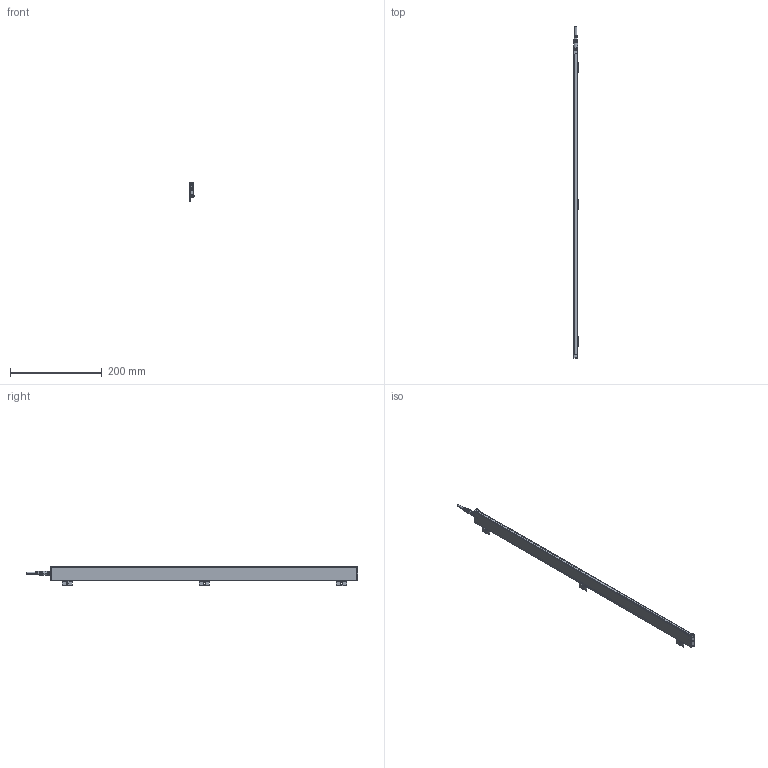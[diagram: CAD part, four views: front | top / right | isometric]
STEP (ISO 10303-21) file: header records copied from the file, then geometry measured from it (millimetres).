
FILE_DESCRIPTION (( 'STEP AP214' ), '1' );
FILE_NAME ('ILG-N-K2-0670mm.STEP', '2017-07-10T13:49:34', ( '' ), ( '' ), 'SwSTEP 2.0', 'SolidWorks 2016', '' );
FILE_SCHEMA (( 'AUTOMOTIVE_DESIGN' ));
Length unit declared in the file: millimetre
Products named in the file (1): ILG-N-K2-0670mm
Bounding box: 10.23 x 723.5 x 42.41 mm (x, y, z)
Surface area: 118136.4 mm2 (no closed solid volume)
Topology: 0 solids, 16 shells, 781 faces, 2020 edges, 1269 vertices
Faces by surface type: plane 346, cylinder 297, cone 90, bspline 32, torus 16
Entity records: 34483 total; most frequent: CARTESIAN_POINT 6956, ORIENTED_EDGE 3993, DIRECTION 3858, EDGE_CURVE 2004, AXIS2_PLACEMENT_3D 1419, VERTEX_POINT 1269, LINE 1020, VECTOR 1020
